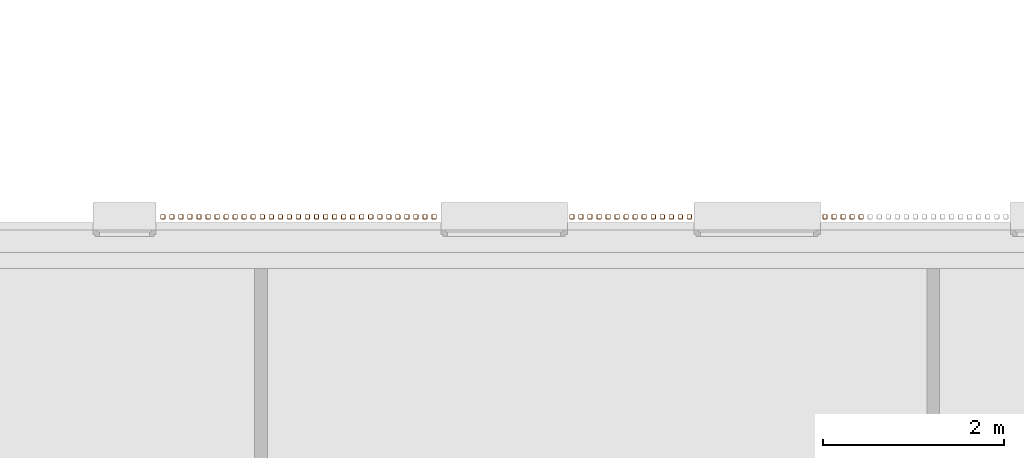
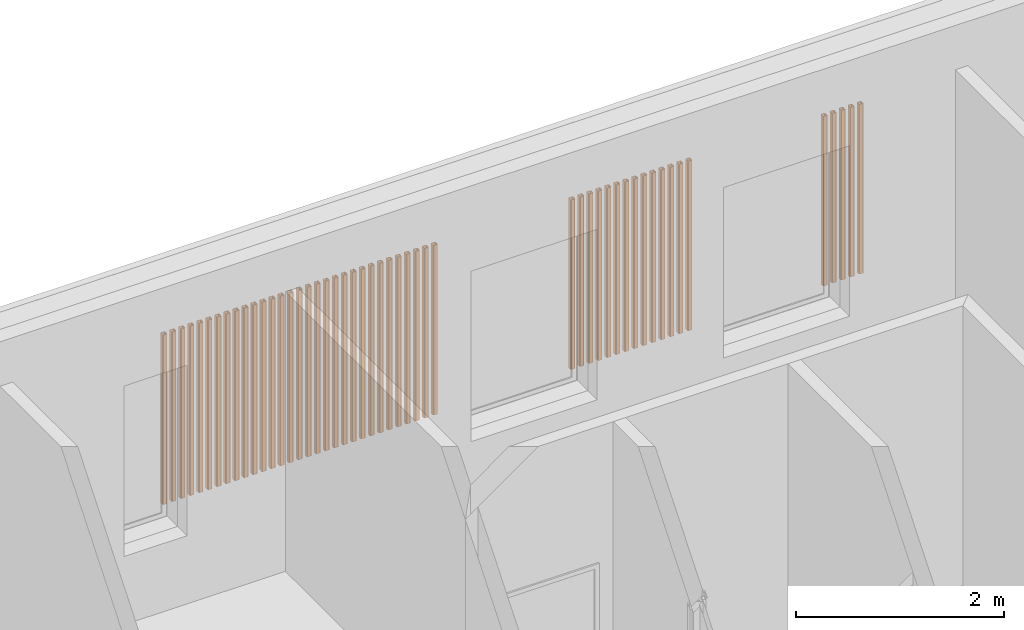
# One storey, part 71 of 112: 50 proxies.
"""IFC2X3 building model written with IfcOpenShell, lengths in millimetres."""

import ifcopenshell
import ifcopenshell.guid

model = None  # the IFC model being written
_history = None  # IfcOwnerHistory: only IFC2X3 demands one
_inside = {}  # id of a spatial element -> (the spatial element, [elements in it])
_under = {}  # id of a project, library or spatial element -> (it, [spatial elements below it])
_declared = {}  # id of a project -> (the project, [libraries it declares])
_typed = {}  # id of a type object -> (the type object, [elements of that type])
_made_of = {}  # id of a material, layer set ... -> (it, [elements and type objects made of it])


def new_model(schema):
    """Start an empty IFC model of exactly this schema.

    Asked for "IFC4X3", IfcOpenShell would pick the latest addendum, in which some entities
    have other attributes; the version numbers below select the first issue.
    IFC2X3 requires an IfcOwnerHistory on every rooted entity: one is made here for all.
    """
    global model, _history
    if schema == "IFC4X3":
        model = ifcopenshell.file(schema_version=(4, 3, 0, 0))
    else:
        model = ifcopenshell.file(schema=schema)
    _inside.clear()
    _under.clear()
    _declared.clear()
    _typed.clear()
    _made_of.clear()
    _history = None
    if model.schema == "IFC2X3":
        org = make("IfcOrganization", Name="unknown")
        user = make(
            "IfcPersonAndOrganization",
            ThePerson=make("IfcPerson", FamilyName="unknown"),
            TheOrganization=org,
        )
        app = make(
            "IfcApplication",
            ApplicationDeveloper=org,
            Version="unknown",
            ApplicationFullName="unknown",
            ApplicationIdentifier="unknown",
        )
        _history = make(
            "IfcOwnerHistory",
            OwningUser=user,
            OwningApplication=app,
            ChangeAction="ADDED",
            CreationDate=0,
        )
    return model


def make(cls, **values):
    """One entity of the class cls with the attributes given. An attribute that is None is left unset."""
    return model.create_entity(
        cls, **{name: value for name, value in values.items() if value is not None}
    )


def entity(cls, *values):
    """Any entity or typed value of the class cls, its attributes in the order of the schema. None: left unset."""
    e = model.create_entity(cls)
    for i, value in enumerate(values):
        if value is not None:
            e[i] = value
    return e


def rooted(cls, **values):
    """An entity with a GlobalId (a new one), such as an element, a storey or a relation."""
    return make(cls, GlobalId=ifcopenshell.guid.new(), OwnerHistory=_history, **values)


def si_unit(unit_type, name, prefix=None):
    """IfcSIUnit, for example si_unit("LENGTHUNIT", "METRE", prefix="MILLI")."""
    return make("IfcSIUnit", UnitType=unit_type, Prefix=prefix, Name=name)


def converted_unit(unit_type, name, factor, base, dimensions=None, offset=None):
    """IfcConversionBasedUnit, such as the inch: factor (a typed value) times the base unit."""
    return make(
        "IfcConversionBasedUnit"
        if offset is None
        else "IfcConversionBasedUnitWithOffset",
        ConversionOffset=offset,
        Dimensions=None
        if dimensions is None
        else entity("IfcDimensionalExponents", *dimensions),
        UnitType=unit_type,
        Name=name,
        ConversionFactor=make(
            "IfcMeasureWithUnit", ValueComponent=factor, UnitComponent=base
        ),
    )


def derived_unit(unit_type, elements):
    """IfcDerivedUnit: a product of units, each with its exponent."""
    return make(
        "IfcDerivedUnit",
        Elements=[
            make("IfcDerivedUnitElement", Unit=unit, Exponent=power)
            for unit, power in elements
        ],
        UnitType=unit_type,
    )


def money_unit(currency):
    """IfcMonetaryUnit."""
    return make("IfcMonetaryUnit", Currency=currency)


def assignment(units):
    """IfcUnitAssignment: the units of a project."""
    return None if units is None else make("IfcUnitAssignment", Units=units)


def point(xyz):
    """IfcCartesianPoint."""
    return None if xyz is None else make("IfcCartesianPoint", Coordinates=xyz)


def direction(xyz):
    """IfcDirection."""
    return None if xyz is None else make("IfcDirection", DirectionRatios=xyz)


def frame(location, z_axis=None, x_axis=None):
    """IfcAxis2Placement3D, a coordinate frame: its origin and axes. An axis left out is left unset."""
    return make(
        "IfcAxis2Placement3D",
        Location=point(location),
        Axis=direction(z_axis),
        RefDirection=direction(x_axis),
    )


def origin_with_axes():
    """The frame at (0, 0, 0) with the z axis (0, 0, 1) and the x axis (1, 0, 0) written out."""
    return frame((0.0, 0.0, 0.0), z_axis=(0.0, 0.0, 1.0), x_axis=(1.0, 0.0, 0.0))


def place(relative_to, where):
    """IfcLocalPlacement: puts the frame where relative to a parent placement (None: the world)."""
    return make(
        "IfcLocalPlacement", PlacementRelTo=relative_to, RelativePlacement=where
    )


def context(
    kind, dimensions, precision=None, world=None, true_north=None, identifier=None
):
    """IfcGeometricRepresentationContext, for example the 3D "Model" context."""
    return make(
        "IfcGeometricRepresentationContext",
        ContextIdentifier=identifier,
        ContextType=kind,
        CoordinateSpaceDimension=dimensions,
        Precision=precision,
        WorldCoordinateSystem=world,
        TrueNorth=true_north,
    )


def subcontext(parent, identifier, kind, view, scale=None):
    """IfcGeometricRepresentationSubContext, for example "Body" below "Model"."""
    return make(
        "IfcGeometricRepresentationSubContext",
        ContextIdentifier=identifier,
        ContextType=kind,
        ParentContext=parent,
        TargetScale=scale,
        TargetView=view,
    )


def project(units=None, contexts=None):
    """IfcProject with its units and contexts."""
    return rooted(
        "IfcProject",
        Name="project",
        RepresentationContexts=contexts,
        UnitsInContext=assignment(units),
    )


def spatial(cls, under=None, at=None, **own):
    """A site, building, storey or space (cls), placed at a placement, below another one or the project."""
    s = rooted(cls, ObjectPlacement=at, **own)
    if under is not None:
        _under.setdefault(under.id(), (under, []))[1].append(s)
    return s


def faces_of(points, faces, orient=None, outer=None):
    """IfcFace entities. A face is a list of loops; a loop is a list of indices into points, from 0.

    orient and outer hold one flag for each loop. By default every Orientation is true, the
    first loop of a face is its IfcFaceOuterBound and the others are IfcFaceBound.
    """
    made = []
    for i, loops in enumerate(faces):
        bounds = []
        for j, loop in enumerate(loops):
            is_outer = j == 0 if outer is None else outer[i][j]
            bounds.append(
                make(
                    "IfcFaceOuterBound" if is_outer else "IfcFaceBound",
                    Bound=make("IfcPolyLoop", Polygon=[points[k] for k in loop]),
                    Orientation=True if orient is None else orient[i][j],
                )
            )
        made.append(make("IfcFace", Bounds=bounds))
    return made


def faceted_brep(points, faces, orient=None, outer=None, voids=None):
    """IfcFacetedBrep: a solid bounded by flat faces; with voids (closed shells), ...WithVoids."""
    shared = [point(p) for p in points]
    hull = make("IfcClosedShell", CfsFaces=faces_of(shared, faces, orient, outer))
    if voids is None:
        return make("IfcFacetedBrep", Outer=hull)
    return make(
        "IfcFacetedBrepWithVoids",
        Outer=hull,
        Voids=[
            make(cls, CfsFaces=faces_of(shared, fs, o, b)) for cls, fs, o, b in voids
        ],
    )


def shape(context_of_items, identifier, shape_type, items):
    """IfcShapeRepresentation: the items that make up one representation, for example the "Body"."""
    return make(
        "IfcShapeRepresentation",
        ContextOfItems=context_of_items,
        RepresentationIdentifier=identifier,
        RepresentationType=shape_type,
        Items=items,
    )


def source(mapping_origin, context_of_items, identifier, shape_type, items):
    """IfcRepresentationMap: a shape defined once, which mapped items show again and again."""
    return make(
        "IfcRepresentationMap",
        MappingOrigin=mapping_origin,
        MappedRepresentation=shape(context_of_items, identifier, shape_type, items),
    )


def transform(
    local_origin,
    x_axis=None,
    y_axis=None,
    z_axis=None,
    scale=None,
    scale2=None,
    scale3=None,
    uniform=True,
):
    """IfcCartesianTransformationOperator3D, or its non-uniform kind. x_axis, y_axis, z_axis: its Axis1, 2, 3."""
    if uniform:
        return make(
            "IfcCartesianTransformationOperator3D",
            Axis1=direction(x_axis),
            Axis2=direction(y_axis),
            LocalOrigin=point(local_origin),
            Scale=scale,
            Axis3=direction(z_axis),
        )
    return make(
        "IfcCartesianTransformationOperator3DnonUniform",
        Axis1=direction(x_axis),
        Axis2=direction(y_axis),
        LocalOrigin=point(local_origin),
        Scale=scale,
        Axis3=direction(z_axis),
        Scale2=scale2,
        Scale3=scale3,
    )


def mapped(mapping_source, mapping_target):
    """IfcMappedItem: shows the shape of a source again, moved by a transform."""
    return make(
        "IfcMappedItem", MappingSource=mapping_source, MappingTarget=mapping_target
    )


def material(Name=None, Category=None):
    """IfcMaterial."""
    return make("IfcMaterial", Name=Name, Category=Category)


def made_of(thing, what):
    """Note that an element or type object is made of a material, layer set ...; save() writes the relation."""
    if what is not None:
        _made_of.setdefault(what.id(), (what, []))[1].append(thing)
    return thing


def type_object(cls, material=None, **own):
    """A type object (cls), such as IfcWallType, which elements share."""
    return made_of(rooted(cls, **own), material)


def element(
    cls,
    number,
    at=None,
    inside=None,
    cuts=None,
    type_object=None,
    material=None,
    context=None,
    identifier="Body",
    shape_type=None,
    held_by="IfcProductDefinitionShape",
    body=None,
    shapes=None,
    **own,
):
    """One element of the class cls, such as IfcWall. Its Tag is "e" and its number.

    at: its placement. inside: the storey or other place that contains it. cuts: it is an
    opening in that element (IfcRelVoidsElement). A single representation is given by context,
    identifier, shape_type and body (its items); several are given by shapes. held_by: the class
    of the entity that holds the representations. save() writes the other relations.
    """
    e = rooted(cls, Tag="e%d" % number, ObjectPlacement=at, **own)
    if body is not None:
        shapes = [shape(context, identifier, shape_type, body)]
    if shapes is not None:
        e.Representation = make(held_by, Representations=shapes)
    if inside is not None:
        _inside.setdefault(inside.id(), (inside, []))[1].append(e)
    if cuts is not None:
        rooted(
            "IfcRelVoidsElement", RelatingBuildingElement=cuts, RelatedOpeningElement=e
        )
    if type_object is not None:
        _typed.setdefault(type_object.id(), (type_object, []))[1].append(e)
    return made_of(e, material)


def aggregate(whole, parts):
    """IfcRelAggregates: a whole, such as a stair, and the parts it consists of."""
    return rooted("IfcRelAggregates", RelatingObject=whole, RelatedObjects=parts)


def save(model, path):
    """Write the relations noted so far, then the file.

    IfcRelAggregates (storeys below a building ...), IfcRelContainedInSpatialStructure (elements
    in a storey), IfcRelDefinesByType, IfcRelAssociatesMaterial and IfcRelDeclares: one each for
    every whole, place, type object, material and project.
    """
    for whole, parts in _under.values():
        aggregate(whole, parts)
    for where, things in _inside.values():
        rooted(
            "IfcRelContainedInSpatialStructure",
            RelatedElements=things,
            RelatingStructure=where,
        )
    for kind, things in _typed.values():
        rooted("IfcRelDefinesByType", RelatedObjects=things, RelatingType=kind)
    for what, things in _made_of.values():
        rooted("IfcRelAssociatesMaterial", RelatedObjects=things, RelatingMaterial=what)
    for by, libraries in _declared.values():
        rooted("IfcRelDeclares", RelatingContext=by, RelatedDefinitions=libraries)
    model.write(path)


model = new_model("IFC2X3")

# Units and contexts
model_context = context("Model", 3, precision=0.01, world=origin_with_axes(), true_north=direction((0.0, 1.0)))
body_context = subcontext(model_context, "Body", "Model", "MODEL_VIEW")
ifc_project = project(units=[si_unit("LENGTHUNIT", "METRE", prefix="MILLI"), si_unit("AREAUNIT", "SQUARE_METRE"), si_unit("VOLUMEUNIT", "CUBIC_METRE"), converted_unit("PLANEANGLEUNIT", "DEGREE", entity("IfcPlaneAngleMeasure", 0.0174532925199), si_unit("PLANEANGLEUNIT", "RADIAN"), dimensions=[0, 0, 0, 0, 0, 0, 0]), si_unit("SOLIDANGLEUNIT", "STERADIAN"), money_unit("EUR"), converted_unit("TIMEUNIT", "Year", entity("IfcTimeMeasure", 31556926.0), si_unit("TIMEUNIT", "SECOND"), dimensions=[0, 0, 1, 0, 0, 0, 0]), si_unit("MASSUNIT", "GRAM", prefix="KILO"), si_unit("THERMODYNAMICTEMPERATUREUNIT", "DEGREE_CELSIUS"), si_unit("LUMINOUSINTENSITYUNIT", "LUMEN"), si_unit("ENERGYUNIT", "JOULE", prefix="MEGA"), derived_unit("THERMALCONDUCTANCEUNIT", [(si_unit("POWERUNIT", "WATT"), 1), (si_unit("LENGTHUNIT", "METRE"), -1), (si_unit("THERMODYNAMICTEMPERATUREUNIT", "KELVIN"), -1)]), derived_unit("SPECIFICHEATCAPACITYUNIT", [(si_unit("ENERGYUNIT", "JOULE"), 1), (si_unit("MASSUNIT", "GRAM", prefix="KILO"), -1), (si_unit("THERMODYNAMICTEMPERATUREUNIT", "KELVIN"), -1)]), derived_unit("MASSDENSITYUNIT", [(si_unit("MASSUNIT", "GRAM", prefix="KILO"), 1), (si_unit("VOLUMEUNIT", "CUBIC_METRE"), -1)])], contexts=[model_context])

# Site, building, storey
site_placement = place(None, origin_with_axes())
site = spatial("IfcSite", under=ifc_project, at=site_placement, Name="Politse- ja Piirivalveameti ning Päästeameti ühishoone", CompositionType="ELEMENT")
building_placement = place(site_placement, origin_with_axes())
building = spatial("IfcBuilding", under=site, at=building_placement, Name="Politse- ja Piirivalveameti ning Päästeameti ühishoone", CompositionType="ELEMENT")
storey_placement = place(building_placement, origin_with_axes())
storey = spatial("IfcBuildingStorey", under=building, at=storey_placement, Name="Esimene korrus", CompositionType="ELEMENT", Elevation=0.0)

# Proxies
ifc_material = material(Name="ET-05_Teras")
building_element_proxy_type = type_object("IfcBuildingElementProxyType", Name="SHS Cold-Formed Column 23", PredefinedType="NOTDEFINED")
shared_shape = source(origin_with_axes(), body_context, "Body", "Brep", [
    faceted_brep([(19.0, -25.0, 0.0), (19.0, -25.0, 1990.0), (-19.0, -25.0, 1990.0), (-19.0, -25.0, 0.0), (23.2426406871, -23.2426406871, 0.0), (23.2426406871, -23.2426406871, 1990.0), (25.0, -19.0, 1990.0), (25.0, 19.0, 1990.0), (23.2426406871, 23.2426406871, 1990.0), (19.0, 25.0, 1990.0), (-19.0, 25.0, 1990.0), (-23.2426406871, 23.2426406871, 1990.0), (-25.0, 19.0, 1990.0), (-25.0, -19.0, 1990.0), (-23.2426406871, -23.2426406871, 1990.0), (19.0, -22.0, 1990.0), (-19.0, -22.0, 1990.0), (-21.1213203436, -21.1213203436, 1990.0), (-22.0, -19.0, 1990.0), (-22.0, 19.0, 1990.0), (-21.1213203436, 21.1213203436, 1990.0), (-19.0, 22.0, 1990.0), (19.0, 22.0, 1990.0), (21.1213203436, 21.1213203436, 1990.0), (22.0, 19.0, 1990.0), (22.0, -19.0, 1990.0), (21.1213203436, -21.1213203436, 1990.0), (-23.2426406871, -23.2426406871, 0.0), (-25.0, -19.0, 0.0), (-25.0, 19.0, 0.0), (-23.2426406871, 23.2426406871, 0.0), (-19.0, 25.0, 0.0), (19.0, 25.0, 0.0), (23.2426406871, 23.2426406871, 0.0), (25.0, 19.0, 0.0), (25.0, -19.0, 0.0), (19.0, -22.0, 0.0), (21.1213203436, -21.1213203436, 0.0), (22.0, -19.0, 0.0), (22.0, 19.0, 0.0), (21.1213203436, 21.1213203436, 0.0), (19.0, 22.0, 0.0), (-19.0, 22.0, 0.0), (-21.1213203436, 21.1213203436, 0.0), (-22.0, 19.0, 0.0), (-22.0, -19.0, 0.0), (-21.1213203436, -21.1213203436, 0.0), (-19.0, -22.0, 0.0)], [[[0, 1, 2, 3]], [[4, 5, 1, 0]], [[1, 5, 6, 7, 8, 9, 10, 11, 12, 13, 14, 2], [15, 16, 17, 18, 19, 20, 21, 22, 23, 24, 25, 26]], [[3, 2, 14, 27]], [[0, 3, 27, 28, 29, 30, 31, 32, 33, 34, 35, 4], [36, 37, 38, 39, 40, 41, 42, 43, 44, 45, 46, 47]], [[35, 6, 5, 4]], [[34, 7, 6, 35]], [[33, 8, 7, 34]], [[32, 9, 8, 33]], [[31, 10, 9, 32]], [[30, 11, 10, 31]], [[29, 12, 11, 30]], [[28, 13, 12, 29]], [[27, 14, 13, 28]], [[47, 16, 15, 36]], [[46, 17, 16, 47]], [[45, 18, 17, 46]], [[44, 19, 18, 45]], [[43, 20, 19, 44]], [[42, 21, 20, 43]], [[41, 22, 21, 42]], [[40, 23, 22, 41]], [[39, 24, 23, 40]], [[38, 25, 24, 39]], [[37, 26, 25, 38]], [[36, 15, 26, 37]]]),
])
for number, where, z_axis, x_axis in (
    (1, (33009.1843136, 21574.5961555, 810.0), (0.0, 0.0, 1.0), (1.30049800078e-07, -1.0, 0.0)),
    (2, (33109.1843136, 21574.5961685, 810.0), (0.0, 0.0, 1.0), (1.30049800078e-07, -1.0, 0.0)),
    (3, (33209.1843136, 21574.5961815, 810.0), (0.0, 0.0, 1.0), (1.30049800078e-07, -1.0, 0.0)),
    (4, (33309.1843136, 21574.5961945, 810.0), (0.0, 0.0, 1.0), (1.30049800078e-07, -1.0, 0.0)),
    (5, (32509.1843136, 21574.5960905, 810.0), (0.0, 0.0, 1.0), (1.30049800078e-07, -1.0, 0.0)),
    (6, (32609.1843136, 21574.5961035, 810.0), (0.0, 0.0, 1.0), (1.30049800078e-07, -1.0, 0.0)),
    (7, (32709.1843136, 21574.5961165, 810.0), (0.0, 0.0, 1.0), (1.30049800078e-07, -1.0, 0.0)),
    (8, (32809.1843136, 21574.5961295, 810.0), (0.0, 0.0, 1.0), (1.30049800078e-07, -1.0, 0.0)),
    (9, (32909.1843136, 21574.5961425, 810.0), (0.0, 0.0, 1.0), (1.30049800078e-07, -1.0, 0.0)),
    (10, (32009.1843136, 21574.5960255, 810.0), (0.0, 0.0, 1.0), (1.30049800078e-07, -1.0, 0.0)),
    (11, (32109.1843136, 21574.5960385, 810.0), (0.0, 0.0, 1.0), (1.30049800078e-07, -1.0, 0.0)),
    (12, (32209.1843136, 21574.5960515, 810.0), (0.0, 0.0, 1.0), (1.30049800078e-07, -1.0, 0.0)),
    (13, (32309.1843136, 21574.5960645, 810.0), (0.0, 0.0, 1.0), (1.30049800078e-07, -1.0, 0.0)),
    (14, (32409.1843136, 21574.5960775, 810.0), (0.0, 0.0, 1.0), (1.30049800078e-07, -1.0, 0.0)),
    (15, (31609.1843136, 21574.5959735, 810.0), (0.0, 0.0, 1.0), (1.30049800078e-07, -1.0, 0.0)),
    (16, (31709.1843136, 21574.5959865, 810.0), (0.0, 0.0, 1.0), (1.30049800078e-07, -1.0, 0.0)),
    (17, (31809.1843136, 21574.5959995, 810.0), (0.0, 0.0, 1.0), (1.30049800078e-07, -1.0, 0.0)),
    (18, (31909.1843136, 21574.5960125, 810.0), (0.0, 0.0, 1.0), (1.30049800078e-07, -1.0, 0.0)),
    (19, (31109.1843136, 21574.5959084, 810.0), (0.0, 0.0, 1.0), (1.30049800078e-07, -1.0, 0.0)),
    (20, (31209.1843136, 21574.5959214, 810.0), (0.0, 0.0, 1.0), (1.30049800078e-07, -1.0, 0.0)),
    (21, (31309.1843136, 21574.5959344, 810.0), (0.0, 0.0, 1.0), (1.30049800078e-07, -1.0, 0.0)),
    (22, (31409.1843136, 21574.5959474, 810.0), (0.0, 0.0, 1.0), (1.30049800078e-07, -1.0, 0.0)),
    (23, (31509.1843136, 21574.5959604, 810.0), (0.0, 0.0, 1.0), (1.30049800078e-07, -1.0, 0.0)),
    (24, (30609.1843136, 21574.5958434, 810.0), (0.0, 0.0, 1.0), (1.30049800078e-07, -1.0, 0.0)),
    (25, (30709.1843136, 21574.5958564, 810.0), (0.0, 0.0, 1.0), (1.30049800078e-07, -1.0, 0.0)),
    (26, (30809.1843136, 21574.5958694, 810.0), (0.0, 0.0, 1.0), (1.30049800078e-07, -1.0, 0.0)),
    (27, (30909.1843136, 21574.5958824, 810.0), (0.0, 0.0, 1.0), (1.30049800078e-07, -1.0, 0.0)),
    (28, (31009.1843136, 21574.5958954, 810.0), (0.0, 0.0, 1.0), (1.30049800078e-07, -1.0, 0.0)),
    (29, (30309.1843136, 21574.5958044, 810.0), (0.0, 0.0, 1.0), (1.30049800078e-07, -1.0, 0.0)),
    (30, (30409.1843136, 21574.5958174, 810.0), (0.0, 0.0, 1.0), (1.30049800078e-07, -1.0, 0.0)),
    (31, (30509.1843136, 21574.5958304, 810.0), (0.0, 0.0, 1.0), (1.30049800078e-07, -1.0, 0.0)),
    (32, (37934.1843136, 21574.596149, 810.0), (0.0, 0.0, 1.0), (1.30049800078e-07, -1.0, 0.0)),
    (33, (38034.1843136, 21574.596162, 810.0), (0.0, 0.0, 1.0), (1.30049800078e-07, -1.0, 0.0)),
    (34, (37634.1843136, 21574.59611, 810.0), (0.0, 0.0, 1.0), (1.30049800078e-07, -1.0, 0.0)),
    (35, (37734.1843136, 21574.596123, 810.0), (0.0, 0.0, 1.0), (1.30049800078e-07, -1.0, 0.0)),
    (36, (37834.1843136, 21574.596136, 810.0), (0.0, 0.0, 1.0), (1.30049800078e-07, -1.0, 0.0)),
    (37, (36134.3056569, 21574.5962791, 810.0), (0.0, 0.0, 1.0), (1.30049800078e-07, -1.0, 0.0)),
    (38, (35634.3056569, 21574.596214, 810.0), (0.0, 0.0, 1.0), (1.30049800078e-07, -1.0, 0.0)),
    (39, (35734.3056569, 21574.5962271, 810.0), (0.0, 0.0, 1.0), (1.30049800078e-07, -1.0, 0.0)),
    (40, (35834.3056569, 21574.5962401, 810.0), (0.0, 0.0, 1.0), (1.30049800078e-07, -1.0, 0.0)),
    (41, (35934.3056569, 21574.5962531, 810.0), (0.0, 0.0, 1.0), (1.30049800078e-07, -1.0, 0.0)),
    (42, (36034.3056569, 21574.5962661, 810.0), (0.0, 0.0, 1.0), (1.30049800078e-07, -1.0, 0.0)),
    (43, (35134.3056569, 21574.596149, 810.0), (0.0, 0.0, 1.0), (1.30049800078e-07, -1.0, 0.0)),
    (44, (35234.3056569, 21574.596162, 810.0), (0.0, 0.0, 1.0), (1.30049800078e-07, -1.0, 0.0)),
    (45, (35334.3056569, 21574.596175, 810.0), (0.0, 0.0, 1.0), (1.30049800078e-07, -1.0, 0.0)),
    (46, (35434.3056569, 21574.596188, 810.0), (0.0, 0.0, 1.0), (1.30049800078e-07, -1.0, 0.0)),
    (47, (35534.3056569, 21574.596201, 810.0), (0.0, 0.0, 1.0), (1.30049800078e-07, -1.0, 0.0)),
    (48, (34834.3056569, 21574.59611, 810.0), (0.0, 0.0, 1.0), (1.30049800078e-07, -1.0, 0.0)),
    (49, (34934.3056569, 21574.596123, 810.0), (0.0, 0.0, 1.0), (1.30049800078e-07, -1.0, 0.0)),
    (50, (35034.3056569, 21574.596136, 810.0), (0.0, 0.0, 1.0), (1.30049800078e-07, -1.0, 0.0)),
):
    element("IfcBuildingElementProxy", number, at=place(storey_placement, frame(where, z_axis=z_axis, x_axis=x_axis)), inside=storey, type_object=building_element_proxy_type, material=ifc_material, Name="Fassaadiribid", context=body_context, shape_type="MappedRepresentation", body=[
        mapped(shared_shape, transform((0.0, 0.0, 0.0))),
    ])

save(model, "model.ifc")
